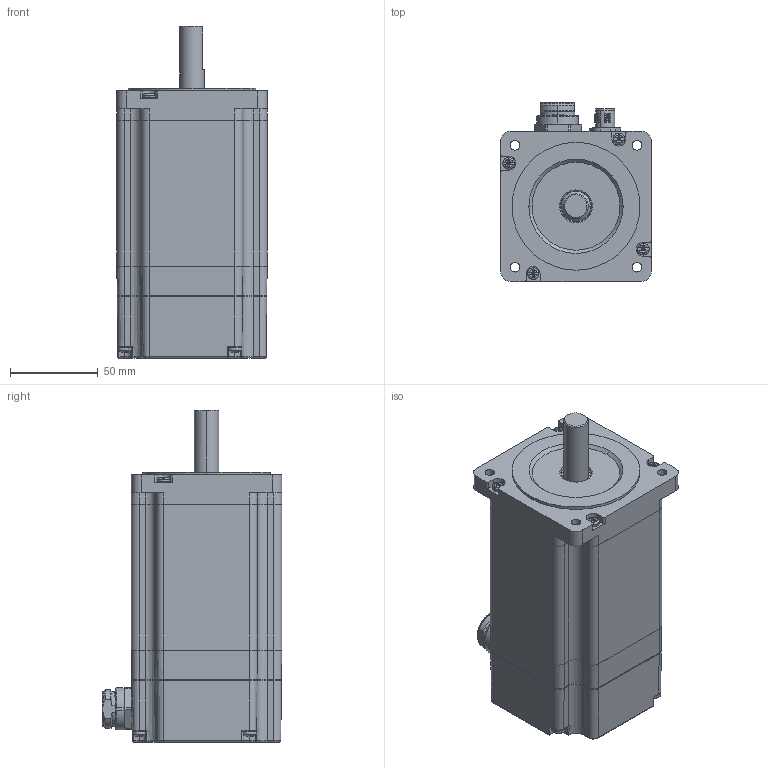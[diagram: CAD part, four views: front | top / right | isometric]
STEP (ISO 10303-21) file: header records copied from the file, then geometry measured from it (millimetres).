
FILE_DESCRIPTION (( 'STEP AP214' ), '1' );
FILE_NAME ('M86SH118-TM1611S05C.STEP', '2025-04-24T14:47:37', ( '' ), ( '' ), 'SwSTEP 2.0', 'SolidWorks 2019', '' );
FILE_SCHEMA (( 'AUTOMOTIVE_DESIGN' ));
Length unit declared in the file: millimetre
Products named in the file (1): M86SH118-TM1611S05C
Bounding box: 85.9 x 102.58 x 189.55 mm (x, y, z)
Volume: 614703.2 mm3; surface area: 192425.2 mm2
Topology: 32 solids, 32 shells, 1993 faces, 5098 edges, 3269 vertices
Faces by surface type: plane 925, cylinder 487, bspline 254, cone 195, torus 116, sphere 16
Entity records: 95876 total; most frequent: CARTESIAN_POINT 25979, ORIENTED_EDGE 10118, DIRECTION 9529, EDGE_CURVE 5059, AXIS2_PLACEMENT_3D 3421, VERTEX_POINT 3269, VECTOR 2687, LINE 2687
